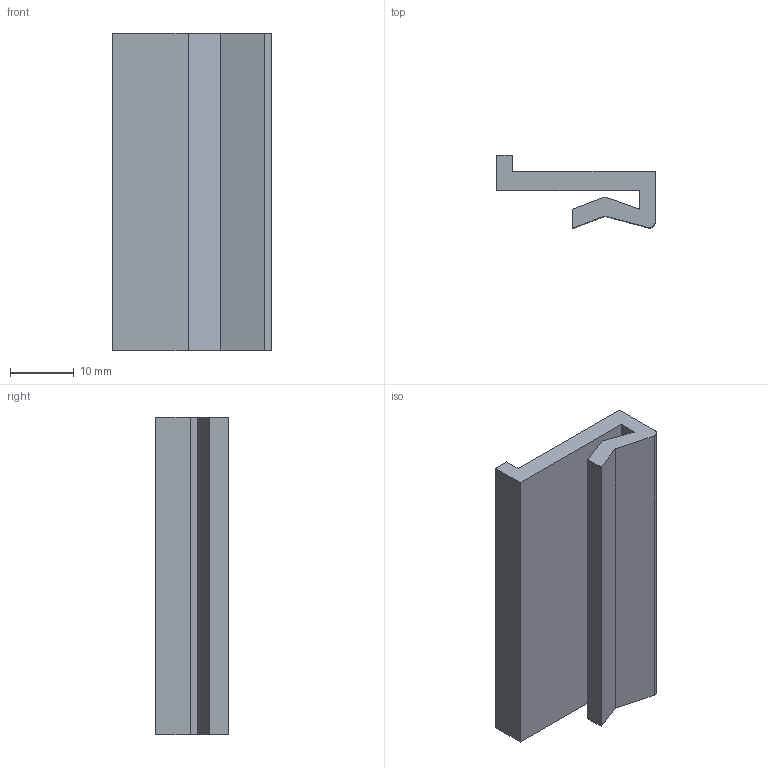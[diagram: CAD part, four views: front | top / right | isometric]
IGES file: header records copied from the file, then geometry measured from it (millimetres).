
Start section: SolidWorks IGES file using analytic representation for surfaces
Global section: file name: C:\Documents and Settings\URETIM3\Desktop\yeni katalog tolgay düzenli\E kataloðu\GEÇMELÝ Z PROFÝL ALPOLEN 1000\206 OGZ 004.SÝYAH.IGS; native system: SolidWorks 2006 by SolidWorks Corporation; preprocessor: SolidWorks 2006 by SolidWorks Corporation; author: URETIM3; date: 060912.174556; units: millimetre
Bounding box: 25 x 11.5 x 50 mm (x, y, z)
Surface area: 4988.1 mm2 (no closed solid volume)
Topology: 0 solids, 0 shells, 15 faces, 92 edges, 92 vertices
Faces by surface type: bspline 14, revolution 1
